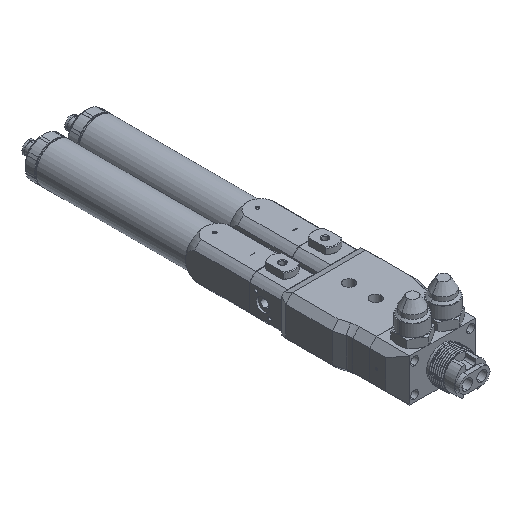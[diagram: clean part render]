
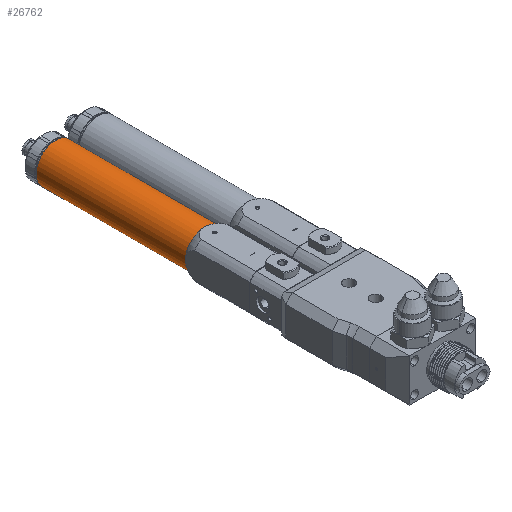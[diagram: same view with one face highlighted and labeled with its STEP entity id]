
A CAD part, isometric view. The second image highlights one B-rep face of the part: STEP entity #26762.
In plain terms, the highlighted cylindrical face has radius 14.5 mm (diameter 29 mm), a full revolution.
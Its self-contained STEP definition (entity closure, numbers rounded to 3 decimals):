
#909 = ORIENTED_EDGE ( 'NONE', *, *, #32018, .T. ) ;
#1235 = CARTESIAN_POINT ( 'NONE',  ( -16.989, 27.249, 984.103 ) ) ;
#1550 = EDGE_CURVE ( 'NONE', #36696, #15770, #7161, .T. ) ;
#2260 = CARTESIAN_POINT ( 'NONE',  ( -16.989, 27.249, 998.603 ) ) ;
#2663 = CARTESIAN_POINT ( 'NONE',  ( -31.489, 27.249, 998.603 ) ) ;
#2673 = DIRECTION ( 'NONE',  ( 0., 0., -1. ) ) ;
#2703 = CARTESIAN_POINT ( 'NONE',  ( -2.489, 27.249, 998.603 ) ) ;
#4134 = CIRCLE ( 'NONE', #9246, 14.5 ) ;
#5116 = DIRECTION ( 'NONE',  ( 0., 0., -1. ) ) ;
#5256 = VERTEX_POINT ( 'NONE', #2703 ) ;
#6720 = AXIS2_PLACEMENT_3D ( 'NONE', #18944, #11961, #30767 ) ;
#7023 = AXIS2_PLACEMENT_3D ( 'NONE', #27757, #35980, #33174 ) ;
#7161 = CIRCLE ( 'NONE', #23823, 14.5 ) ;
#9246 = AXIS2_PLACEMENT_3D ( 'NONE', #12990, #16194, #18987 ) ;
#11961 = DIRECTION ( 'NONE',  ( 0., -1., 0. ) ) ;
#12990 = CARTESIAN_POINT ( 'NONE',  ( -16.989, 139.049, 998.603 ) ) ;
#13237 = DIRECTION ( 'NONE',  ( 0., -1., 0. ) ) ;
#13895 = CARTESIAN_POINT ( 'NONE',  ( -16.989, 139.049, 1013.103 ) ) ;
#15770 = VERTEX_POINT ( 'NONE', #34528 ) ;
#15877 = CIRCLE ( 'NONE', #28006, 14.5 ) ;
#15956 = FACE_OUTER_BOUND ( 'NONE', #35706, .T. ) ;
#16194 = DIRECTION ( 'NONE',  ( 0., -1., 0. ) ) ;
#16518 = EDGE_CURVE ( 'NONE', #24882, #35137, #15877, .T. ) ;
#17993 = EDGE_LOOP ( 'NONE', ( #36197, #20093 ) ) ;
#18944 = CARTESIAN_POINT ( 'NONE',  ( -16.989, 23.312, 998.603 ) ) ;
#18987 = DIRECTION ( 'NONE',  ( 0., 0., -1. ) ) ;
#20093 = ORIENTED_EDGE ( 'NONE', *, *, #33244, .T. ) ;
#21564 = FACE_OUTER_BOUND ( 'NONE', #17993, .T. ) ;
#23249 = CARTESIAN_POINT ( 'NONE',  ( -16.989, 139.049, 998.603 ) ) ;
#23823 = AXIS2_PLACEMENT_3D ( 'NONE', #23249, #13237, #25460 ) ;
#24492 = DIRECTION ( 'NONE',  ( 0., 1., 0. ) ) ;
#24882 = VERTEX_POINT ( 'NONE', #1235 ) ;
#25145 = ORIENTED_EDGE ( 'NONE', *, *, #34861, .T. ) ;
#25460 = DIRECTION ( 'NONE',  ( 0., 0., -1. ) ) ;
#25563 = CIRCLE ( 'NONE', #28761, 14.5 ) ;
#26140 = CARTESIAN_POINT ( 'NONE',  ( -16.989, 27.249, 998.603 ) ) ;
#26709 = ORIENTED_EDGE ( 'NONE', *, *, #16518, .T. ) ;
#26762 = ADVANCED_FACE ( 'NONE', ( #15956, #21564 ), #30569, .T. ) ;
#26869 = CIRCLE ( 'NONE', #7023, 14.5 ) ;
#27757 = CARTESIAN_POINT ( 'NONE',  ( -16.989, 27.249, 998.603 ) ) ;
#28006 = AXIS2_PLACEMENT_3D ( 'NONE', #36105, #24492, #2673 ) ;
#28187 = CARTESIAN_POINT ( 'NONE',  ( -16.989, 27.249, 1013.103 ) ) ;
#28761 = AXIS2_PLACEMENT_3D ( 'NONE', #26140, #38338, #5116 ) ;
#29314 = AXIS2_PLACEMENT_3D ( 'NONE', #2260, #36082, #32881 ) ;
#29651 = ORIENTED_EDGE ( 'NONE', *, *, #35561, .T. ) ;
#30569 = CYLINDRICAL_SURFACE ( 'NONE', #6720, 14.5 ) ;
#30767 = DIRECTION ( 'NONE',  ( 0., 0., -1. ) ) ;
#32018 = EDGE_CURVE ( 'NONE', #5256, #24882, #33773, .T. ) ;
#32881 = DIRECTION ( 'NONE',  ( 0., 0., -1. ) ) ;
#33174 = DIRECTION ( 'NONE',  ( 0., 0., -1. ) ) ;
#33244 = EDGE_CURVE ( 'NONE', #15770, #36696, #4134, .T. ) ;
#33773 = CIRCLE ( 'NONE', #29314, 14.5 ) ;
#34528 = CARTESIAN_POINT ( 'NONE',  ( -16.989, 139.049, 984.103 ) ) ;
#34861 = EDGE_CURVE ( 'NONE', #35137, #38795, #25563, .T. ) ;
#35137 = VERTEX_POINT ( 'NONE', #2663 ) ;
#35561 = EDGE_CURVE ( 'NONE', #38795, #5256, #26869, .T. ) ;
#35706 = EDGE_LOOP ( 'NONE', ( #909, #26709, #25145, #29651 ) ) ;
#35980 = DIRECTION ( 'NONE',  ( 0., 1., 0. ) ) ;
#36082 = DIRECTION ( 'NONE',  ( 0., 1., 0. ) ) ;
#36105 = CARTESIAN_POINT ( 'NONE',  ( -16.989, 27.249, 998.603 ) ) ;
#36197 = ORIENTED_EDGE ( 'NONE', *, *, #1550, .T. ) ;
#36696 = VERTEX_POINT ( 'NONE', #13895 ) ;
#38338 = DIRECTION ( 'NONE',  ( 0., 1., 0. ) ) ;
#38795 = VERTEX_POINT ( 'NONE', #28187 ) ;
